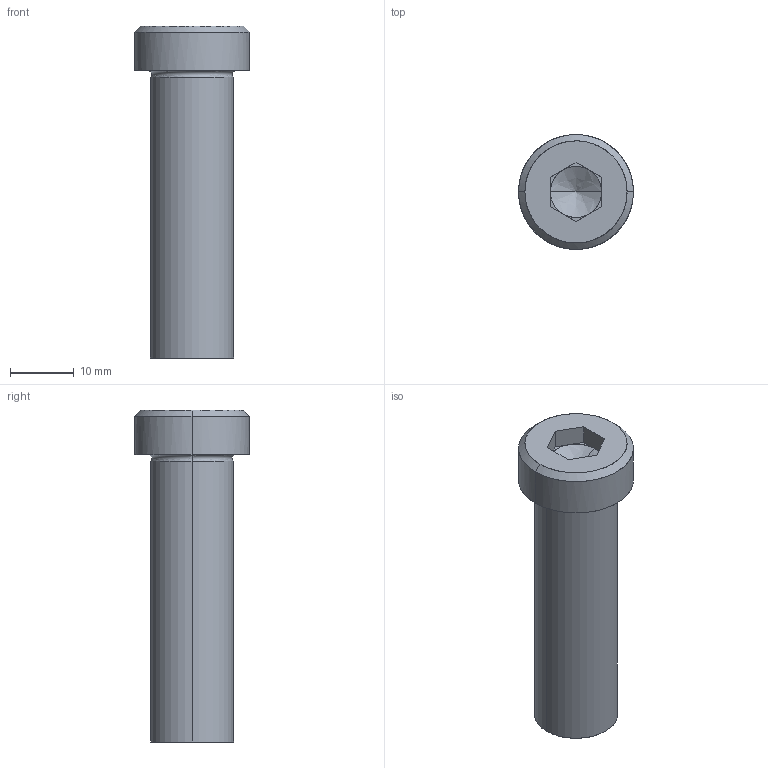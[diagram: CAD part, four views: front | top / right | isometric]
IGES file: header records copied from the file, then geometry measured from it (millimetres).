
Global section: file name: E:\UnigraphicsGraphicData\MISUMI_PRESS-PARTS\IGES\3d_sbtcn13-45_05149_r00.igs; native system: NX V5.0; preprocessor: UGS NX IGES V5.0; author: MISUMI; date: 20110105.162454; units: millimetre
Bounding box: 18 x 18 x 52 mm (x, y, z)
Surface area: 3225.2 mm2 (no closed solid volume)
Topology: 0 solids, 0 shells, 34 faces, 186 edges, 182 vertices
Faces by surface type: bspline 34
